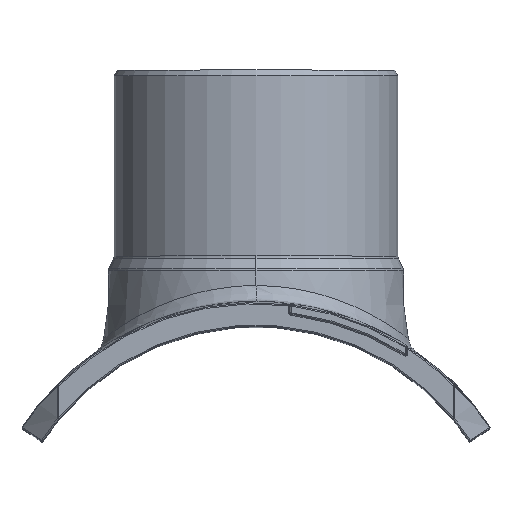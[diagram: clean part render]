
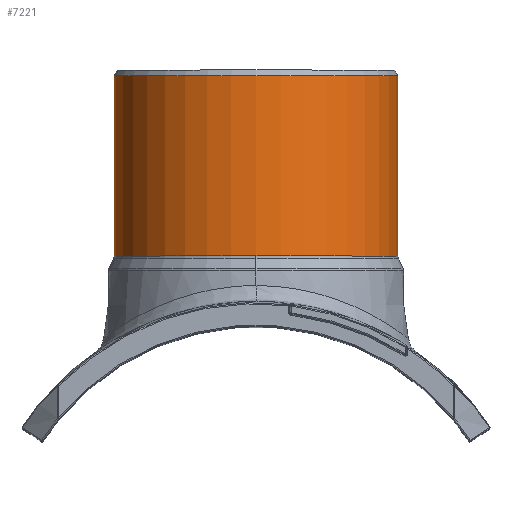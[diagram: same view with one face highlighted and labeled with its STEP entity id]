
A CAD part, top view. The second image highlights one B-rep face of the part: STEP entity #7221.
In plain terms, the highlighted cylindrical face has radius 125 mm (diameter 250 mm), a partial arc.
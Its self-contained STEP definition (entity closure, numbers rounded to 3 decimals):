
#733=CARTESIAN_POINT('',(0.,446.,0.));
#734=DIRECTION('',(0.,1.,0.));
#735=DIRECTION('',(-1.,0.,0.));
#736=AXIS2_PLACEMENT_3D('',#733,#734,#735);
#748=CARTESIAN_POINT('',(0.,287.083,0.));
#749=DIRECTION('',(0.,-1.,0.));
#750=DIRECTION('',(1.,0.,0.));
#751=AXIS2_PLACEMENT_3D('',#748,#749,#750);
#756=CARTESIAN_POINT('',(0.,287.083,0.));
#757=DIRECTION('',(0.,-1.,0.));
#758=DIRECTION('',(0.,0.,1.));
#759=AXIS2_PLACEMENT_3D('',#756,#757,#758);
#764=DIRECTION('',(0.,-1.,0.));
#765=VECTOR('',#764,158.917);
#766=CARTESIAN_POINT('',(-125.,446.,0.));
#767=LINE('151588',#766,#765);
#6044=DIRECTION('',(0.,-1.,0.));
#6045=VECTOR('',#6044,158.917);
#6046=CARTESIAN_POINT('',(125.,446.,0.));
#6047=LINE('151587',#6046,#6045);
#6055=CARTESIAN_POINT('',(125.,446.,0.));
#6056=CARTESIAN_POINT('',(-125.,446.,0.));
#6057=VERTEX_POINT('',#6055);
#6058=VERTEX_POINT('',#6056);
#6079=CARTESIAN_POINT('',(125.,287.083,0.));
#6080=CARTESIAN_POINT('',(0.,287.083,125.));
#6081=VERTEX_POINT('',#6079);
#6082=VERTEX_POINT('',#6080);
#6083=CARTESIAN_POINT('',(-125.,287.083,0.));
#6084=VERTEX_POINT('',#6083);
#7205=CARTESIAN_POINT('',(0.,451.,0.));
#7206=DIRECTION('',(0.,1.,0.));
#7207=DIRECTION('',(1.,0.,0.));
#7208=AXIS2_PLACEMENT_3D('',#7205,#7206,#7207);
#7209=CYLINDRICAL_SURFACE('4584',#7208,125.);
#7211=ORIENTED_EDGE('151579',*,*,#7210,.T.);
#7213=ORIENTED_EDGE('151581',*,*,#7212,.T.);
#7215=ORIENTED_EDGE('151588',*,*,#7214,.F.);
#7216=ORIENTED_EDGE('4600',*,*,#7199,.T.);
#7218=ORIENTED_EDGE('151587',*,*,#7217,.T.);
#7219=EDGE_LOOP('4584',(#7211,#7213,#7215,#7216,#7218));
#7220=FACE_OUTER_BOUND('4584',#7219,.F.);
#737=CIRCLE('4600',#736,125.);
#752=CIRCLE('151579',#751,125.);
#760=CIRCLE('151581',#759,125.);
#7199=EDGE_CURVE('4600',#6058,#6057,#737,.T.);
#7210=EDGE_CURVE('151579',#6081,#6082,#752,.T.);
#7212=EDGE_CURVE('151581',#6082,#6084,#760,.T.);
#7214=EDGE_CURVE('151588',#6058,#6084,#767,.T.);
#7217=EDGE_CURVE('151587',#6057,#6081,#6047,.T.);
#7221=ADVANCED_FACE('4584',(#7220),#7209,.T.);
